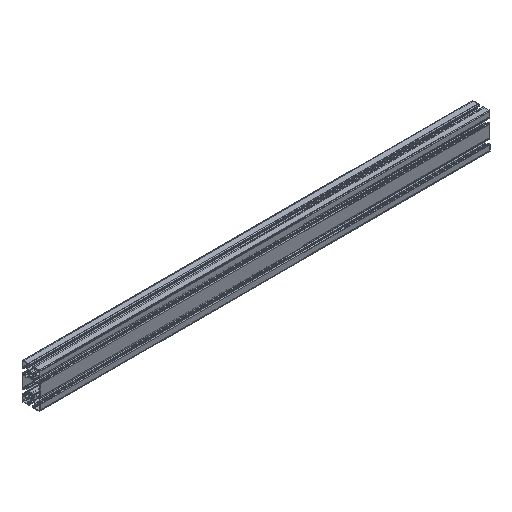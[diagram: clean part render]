
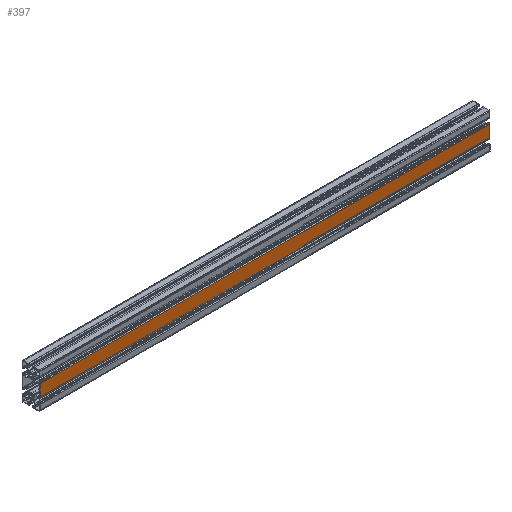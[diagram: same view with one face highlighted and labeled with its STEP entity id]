
A CAD part, isometric view. The second image highlights one B-rep face of the part: STEP entity #397.
In plain terms, the highlighted planar face has unit normal (0, -1, 0).
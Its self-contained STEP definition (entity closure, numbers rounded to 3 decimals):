
#387 = LINE ( 'NONE', #388, #7808 ) ;
#388 = CARTESIAN_POINT ( 'NONE',  ( 1000., -20., -5.65 ) ) ;
#397 = ADVANCED_FACE ( 'NONE', ( #9007 ), #1073, .F. ) ;
#785 = CARTESIAN_POINT ( 'NONE',  ( 1000., -20., -34.35 ) ) ;
#1073 = PLANE ( 'NONE',  #6820 ) ;
#1160 = CARTESIAN_POINT ( 'NONE',  ( 0., -20., -5.65 ) ) ;
#1257 = DIRECTION ( 'NONE',  ( -1., 0., 0. ) ) ;
#1327 = ORIENTED_EDGE ( 'NONE', *, *, #3613, .T. ) ;
#1380 = VECTOR ( 'NONE', #4743, 1000. ) ;
#1475 = DIRECTION ( 'NONE',  ( 0., 0., -1. ) ) ;
#1647 = VECTOR ( 'NONE', #1257, 1000. ) ;
#1750 = VERTEX_POINT ( 'NONE', #2716 ) ;
#1879 = LINE ( 'NONE', #3650, #7393 ) ;
#1886 = EDGE_CURVE ( 'NONE', #4730, #4376, #1879, .T. ) ;
#1943 = ORIENTED_EDGE ( 'NONE', *, *, #1886, .T. ) ;
#2144 = CARTESIAN_POINT ( 'NONE',  ( 0., -20., -34.35 ) ) ;
#2259 = EDGE_LOOP ( 'NONE', ( #1943, #5595, #2523, #1327 ) ) ;
#2523 = ORIENTED_EDGE ( 'NONE', *, *, #3672, .F. ) ;
#2550 = DIRECTION ( 'NONE',  ( -1., 0., 0. ) ) ;
#2716 = CARTESIAN_POINT ( 'NONE',  ( 1000., -20., -5.65 ) ) ;
#2999 = CARTESIAN_POINT ( 'NONE',  ( 1000., -20., -34.35 ) ) ;
#3353 = CARTESIAN_POINT ( 'NONE',  ( 1000., -20., -34.35 ) ) ;
#3613 = EDGE_CURVE ( 'NONE', #1750, #4730, #387, .T. ) ;
#3650 = CARTESIAN_POINT ( 'NONE',  ( 0., -20., -34.35 ) ) ;
#3672 = EDGE_CURVE ( 'NONE', #1750, #5405, #5197, .T. ) ;
#3787 = LINE ( 'NONE', #8447, #1647 ) ;
#4376 = VERTEX_POINT ( 'NONE', #2144 ) ;
#4436 = DIRECTION ( 'NONE',  ( 0., 0., 1. ) ) ;
#4730 = VERTEX_POINT ( 'NONE', #1160 ) ;
#4743 = DIRECTION ( 'NONE',  ( 0., 0., -1. ) ) ;
#5173 = EDGE_CURVE ( 'NONE', #5405, #4376, #3787, .T. ) ;
#5197 = LINE ( 'NONE', #3353, #1380 ) ;
#5405 = VERTEX_POINT ( 'NONE', #785 ) ;
#5595 = ORIENTED_EDGE ( 'NONE', *, *, #5173, .F. ) ;
#6820 = AXIS2_PLACEMENT_3D ( 'NONE', #2999, #8781, #4436 ) ;
#7393 = VECTOR ( 'NONE', #1475, 1000. ) ;
#7808 = VECTOR ( 'NONE', #2550, 1000. ) ;
#8447 = CARTESIAN_POINT ( 'NONE',  ( 1000., -20., -34.35 ) ) ;
#8781 = DIRECTION ( 'NONE',  ( 0., 1., 0. ) ) ;
#9007 = FACE_OUTER_BOUND ( 'NONE', #2259, .T. ) ;
